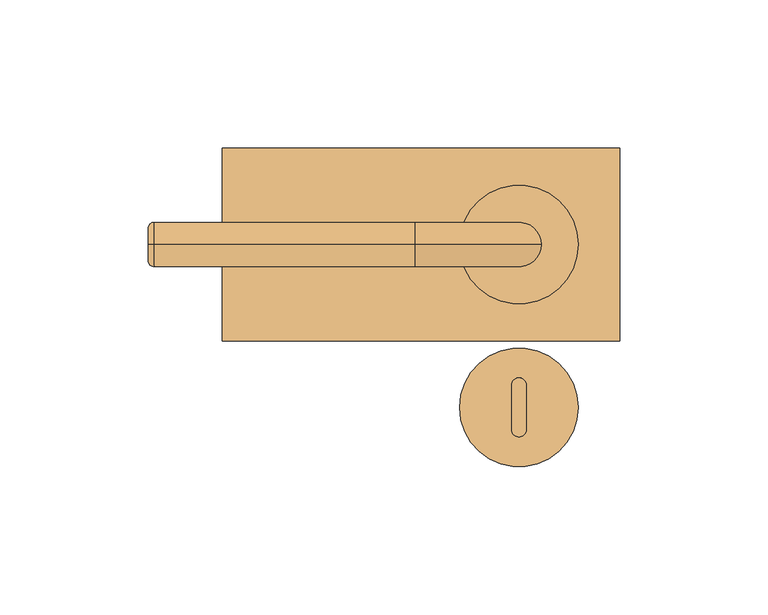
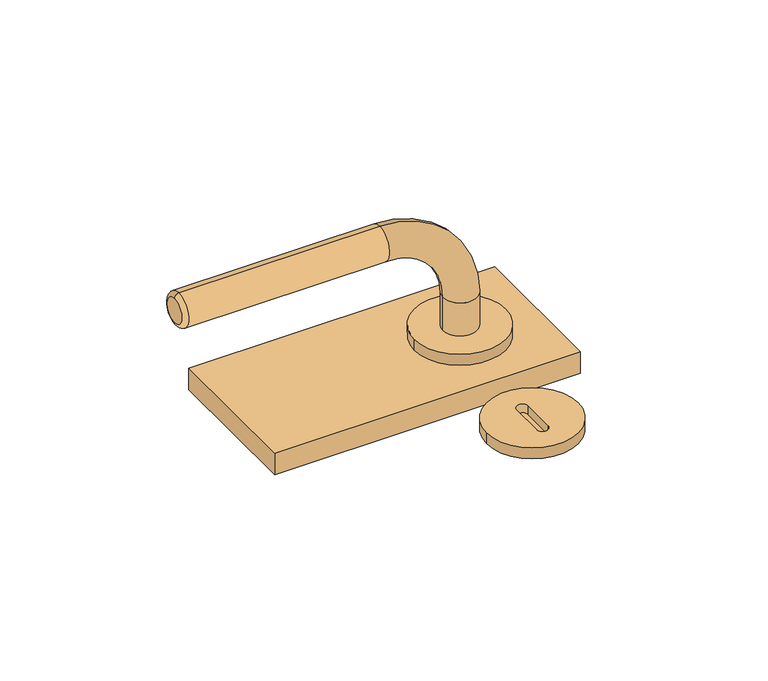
"""IFC4 building model written with IfcOpenShell, lengths in millimetres: door geometry, VERTI - kování TUPAI : ELIPTICA."""

from ifc_helpers import new_model, si_unit, point, frame, origin, origin_with_axes, origin_2d, place, context, project, spatial, polyline, circle_curve, ellipse_curve, trimmed, segment, composite_curve, outline, extrude, source, transform, mapped, element, save
from ifc_brep_helpers import plane_surface, cylinder_surface, revolved_surface, advanced_brep


def door_a52ef8e4(model_context):
    return source(origin(), model_context, "Body", "SolidModel", [
        advanced_brep(
        [(7.5, 0.0, 0.0), (-7.5, 0.0, 0.0), (7.5, 0.0, 30.0), (-7.5, 0.0, 30.0), (-35.0, 0.0, 72.5), (-35.0, 0.0, 57.5), (-125.0, 0.0, 59.5), (-125.0, 0.0, 70.5), (-123.0, 0.0, 72.5), (-123.0, 0.0, 57.5)],
        [
            (0, 1, circle_curve(frame((0.0, 0.0, 0.0), z_axis=(0.0, 0.0, -1.0), x_axis=(-1.0, 0.0, 0.0)), 7.5)),
            (1, 0, circle_curve(frame((0.0, 0.0, 0.0), z_axis=(0.0, 0.0, -1.0), x_axis=(-1.0, 0.0, 0.0)), 7.5)),
            (0, 2),
            (2, 3, circle_curve(frame((0.0, 0.0, 30.0), z_axis=(0.0, 0.0, -1.0), x_axis=(-1.0, 0.0, 0.0)), 7.5)),
            (3, 1),
            (3, 2, circle_curve(frame((0.0, 0.0, 30.0), z_axis=(0.0, 0.0, -1.0), x_axis=(-1.0, 0.0, 0.0)), 7.5)),
            (2, 4, circle_curve(frame((-35.0, 0.0, 30.0), z_axis=(0.0, -1.0, 0.0), x_axis=(1.0, 0.0, 0.0)), 42.5)),
            (4, 5, circle_curve(frame((-35.0, 0.0, 65.0), z_axis=(1.0, 0.0, 0.0), x_axis=(0.0, 0.0, -1.0)), 7.5)),
            (5, 3, circle_curve(frame((-35.0, 0.0, 30.0), z_axis=(0.0, 1.0, 0.0), x_axis=(1.0, 0.0, 0.0)), 27.5)),
            (5, 4, circle_curve(frame((-35.0, 0.0, 65.0), z_axis=(1.0, 0.0, 0.0), x_axis=(0.0, 0.0, -1.0)), 7.5)),
            (6, 7, circle_curve(frame((-125.0, 0.0, 65.0), z_axis=(-1.0, 0.0, 0.0), x_axis=(0.0, 0.0, 1.0)), 5.5)),
            (7, 6, circle_curve(frame((-125.0, 0.0, 65.0), z_axis=(-1.0, 0.0, 0.0), x_axis=(0.0, 0.0, -1.0)), 5.5)),
            (4, 8),
            (8, 9, circle_curve(frame((-123.0, 0.0, 65.0), z_axis=(1.0, 0.0, 0.0), x_axis=(0.0, 0.0, -1.0)), 7.5)),
            (9, 5),
            (9, 8, circle_curve(frame((-123.0, 0.0, 65.0), z_axis=(1.0, 0.0, 0.0), x_axis=(0.0, 0.0, -1.0)), 7.5)),
            (6, 9, circle_curve(frame((-123.0, 0.0, 59.5), z_axis=(0.0, -1.0, 0.0), x_axis=(0.0, 0.0, 1.0)), 2.0)),
            (8, 7, circle_curve(frame((-123.0, 0.0, 70.5), z_axis=(0.0, -1.0, 0.0), x_axis=(0.0, 0.0, -1.0)), 2.0)),
        ],
        [
            plane_surface(frame((0.0, 0.0, 0.0), z_axis=(0.0, 0.0, -1.0), x_axis=(0.0, -1.0, 0.0))),
            cylinder_surface(frame((0.0, 0.0, 0.0), z_axis=(0.0, 0.0, -1.0), x_axis=(-1.0, 0.0, 0.0)), 7.5),
            revolved_surface(trimmed(ellipse_curve(frame((0.0, 0.0, 30.0), z_axis=(0.0, 0.0, -1.0), x_axis=(-1.0, 0.0, 0.0)), 7.5, 7.5), [point((7.5, 0.0, 30.0))], [point((-7.5, 0.0, 30.0))], True, "CARTESIAN"), (-35.0, 0.0, 30.0), (0.0, -1.0, 0.0)),
            revolved_surface(trimmed(ellipse_curve(frame((0.0, 0.0, 30.0), z_axis=(0.0, 0.0, -1.0), x_axis=(-1.0, 0.0, 0.0)), 7.5, 7.5), [point((-7.5, 0.0, 30.0))], [point((7.5, 0.0, 30.0))], True, "CARTESIAN"), (-35.0, 0.0, 30.0), (0.0, -1.0, 0.0)),
            plane_surface(frame((-125.0, 0.0, 65.0), z_axis=(-1.0, 0.0, 0.0), x_axis=(0.0, -1.0, 0.0))),
            cylinder_surface(frame((-35.0, 0.0, 65.0), z_axis=(1.0, 0.0, 0.0), x_axis=(0.0, 0.0, -1.0)), 7.5),
            revolved_surface(trimmed(ellipse_curve(frame((-123.0, 0.0, 70.5), z_axis=(0.0, 1.0, 0.0), x_axis=(0.0, 0.0, -1.0)), 2.0, 2.0), [point((-125.0, 0.0, 70.5))], [point((-123.0, 0.0, 72.5))], True, "CARTESIAN"), (-125.0, 0.0, 65.0), (1.0, 0.0, 0.0)),
            revolved_surface(trimmed(ellipse_curve(frame((-123.0, 0.0, 59.5), z_axis=(0.0, -1.0, 0.0), x_axis=(0.0, 0.0, 1.0)), 2.0, 2.0), [point((-125.0, 0.0, 59.5))], [point((-123.0, 0.0, 57.5))], True, "CARTESIAN"), (-125.0, 0.0, 65.0), (1.0, 0.0, 0.0)),
        ],
        [
            (0, [[1, 2]]),
            (1, [[-1, 3, 4, 5]]),
            (1, [[-2, -5, 6, -3]]),
            (2, [[-4, 7, 8, 9]]),
            (3, [[-6, -9, 10, -7]]),
            (4, [[11, 12]]),
            (5, [[-8, 13, 14, 15]]),
            (5, [[-10, -15, 16, -13]]),
            (6, [[17, -14, 18, -11]]),
            (7, [[-17, -12, -18, -16]]),
        ],
    ),
        advanced_brep(
        [(-20.0, -55.0, 5.0), (20.0, -55.0, 5.0), (-2.5, -62.4770958, 5.0), (-2.5, -47.5, 5.0), (2.5, -47.5, 5.0), (2.5, -62.4770958, 5.0), (-20.0, -55.0, 0.0), (20.0, -55.0, 0.0), (2.5, -47.5, 1.0), (2.5, -62.4770958, 1.0), (-2.5, -62.4770958, 1.0), (-2.5, -47.5, 1.0), (0.0, -45.0, 1.0)],
        [
            (0, 1, circle_curve(frame((0.0, -55.0, 5.0), z_axis=(0.0, 0.0, 1.0), x_axis=(1.0, 0.0, 0.0)), 20.0)),
            (1, 0, circle_curve(frame((0.0, -55.0, 5.0), z_axis=(0.0, 0.0, 1.0), x_axis=(1.0, 0.0, 0.0)), 20.0)),
            (2, 3),
            (3, 4, circle_curve(frame((0.0, -47.5, 5.0), z_axis=(0.0, 0.0, -1.0), x_axis=(1.0, 0.0, 0.0)), 2.5)),
            (4, 5),
            (5, 2, circle_curve(frame((0.0, -62.4770958, 5.0), z_axis=(0.0, 0.0, -1.0), x_axis=(1.0, 0.0, 0.0)), 2.5)),
            (6, 7, circle_curve(frame((0.0, -55.0, 0.0), z_axis=(0.0, 0.0, -1.0), x_axis=(1.0, 0.0, 0.0)), 20.0)),
            (7, 6, circle_curve(frame((0.0, -55.0, 0.0), z_axis=(0.0, 0.0, -1.0), x_axis=(1.0, 0.0, 0.0)), 20.0)),
            (0, 6),
            (7, 1),
            (4, 8),
            (8, 9),
            (9, 5),
            (2, 10),
            (10, 11),
            (11, 3),
            (8, 12, circle_curve(frame((0.0, -47.5, 1.0), z_axis=(0.0, 0.0, 1.0), x_axis=(1.0, 0.0, 0.0)), 2.5)),
            (12, 11, circle_curve(frame((0.0, -47.5, 1.0), z_axis=(0.0, 0.0, 1.0), x_axis=(1.0, 0.0, 0.0)), 2.5)),
            (10, 9, circle_curve(frame((0.0, -62.4770958, 1.0), z_axis=(0.0, 0.0, 1.0), x_axis=(1.0, 0.0, 0.0)), 2.5)),
        ],
        [
            plane_surface(frame((20.0, -55.0, 5.0), z_axis=(0.0, 0.0, 1.0), x_axis=(0.0, 1.0, 0.0))),
            plane_surface(frame((20.0, -55.0, 0.0), z_axis=(0.0, 0.0, -1.0), x_axis=(0.0, -1.0, 0.0))),
            cylinder_surface(frame((0.0, -55.0, 0.0), z_axis=(0.0, 0.0, 1.0), x_axis=(1.0, 0.0, 0.0)), 20.0),
            plane_surface(frame((2.5, -47.5, 5.0), z_axis=(-1.0, 0.0, 0.0), x_axis=(0.0, 0.0, -1.0))),
            plane_surface(frame((-2.5, -62.4770958, 5.0), z_axis=(1.0, 0.0, 0.0), x_axis=(0.0, 0.0, -1.0))),
            plane_surface(frame((-2.5, -45.0, 1.0), z_axis=(0.0, 0.0, 1.0), x_axis=(-1.0, 0.0, 0.0))),
            revolved_surface(polyline([(2.5, -47.5, 1.0), (2.5, -47.5, 5.0)]), (0.0, -47.5, 0.0), (0.0, 0.0, -1.0)),
            revolved_surface(polyline([(2.5, -62.4770958, 1.0), (2.5, -62.4770958, 5.0)]), (0.0, -62.4770958, 0.0), (0.0, 0.0, -1.0)),
        ],
        [
            (0, [[1, 2], [3, 4, 5, 6]]),
            (1, [[7, 8]]),
            (2, [[-1, 9, -8, 10]]),
            (2, [[-2, -10, -7, -9]]),
            (3, [[-5, 11, 12, 13]]),
            (4, [[-3, 14, 15, 16]]),
            (5, [[-12, 17, 18, -15, 19]]),
            (6, [[-4, -16, -18, -17, -11]]),
            (7, [[-6, -13, -19, -14]]),
        ],
    ),
        extrude(outline(composite_curve([segment(trimmed(circle_curve(origin_2d(), 20.0), [point((-20.0, 0.0))], [point((20.0, 0.0))], False, "CARTESIAN"), True, "CONTINUOUS"), segment(trimmed(circle_curve(origin_2d(), 20.0), [point((20.0, 0.0))], [point((-20.0, 0.0))], False, "CARTESIAN"), True, "CONTINUOUS")], self_intersect=False)), frame((0.0, 0.0, 10.0), z_axis=(0.0, 0.0, 1.0), x_axis=(1.0, 0.0, 0.0)), (0.0, 0.0, 1.0), 5.0),
        extrude(outline(polyline([(34.0, 32.5), (34.0, -32.5), (-100.0, -32.5), (-100.0, 32.5), (34.0, 32.5)])), origin_with_axes(), (0.0, 0.0, 1.0), 10.0),
    ])


if __name__ == "__main__":
    model = new_model("IFC4")
    model_context = context("Model", 3, world=origin())
    ifc_project = project(units=[si_unit("LENGTHUNIT", "METRE", prefix="MILLI")], contexts=[model_context])
    site = spatial("IfcSite", under=ifc_project)
    building = spatial("IfcBuilding", under=site)
    placement = place(None, origin())
    door_shape = door_a52ef8e4(model_context)
    element("IfcDoor", 1, ObjectType="VERTI - kování TUPAI : ELIPTICA", at=placement, inside=building, context=model_context, shape_type="MappedRepresentation", body=[
        mapped(door_shape, transform((0.0, 0.0, 0.0), x_axis=(1.0, 0.0, 0.0), y_axis=(0.0, 1.0, 0.0), z_axis=(0.0, 0.0, 1.0))),
    ])
    save(model, "model.ifc")
